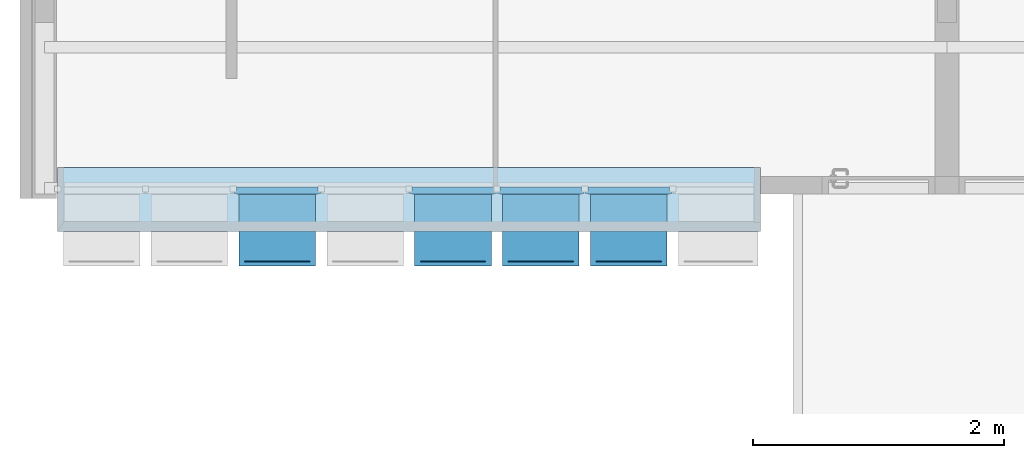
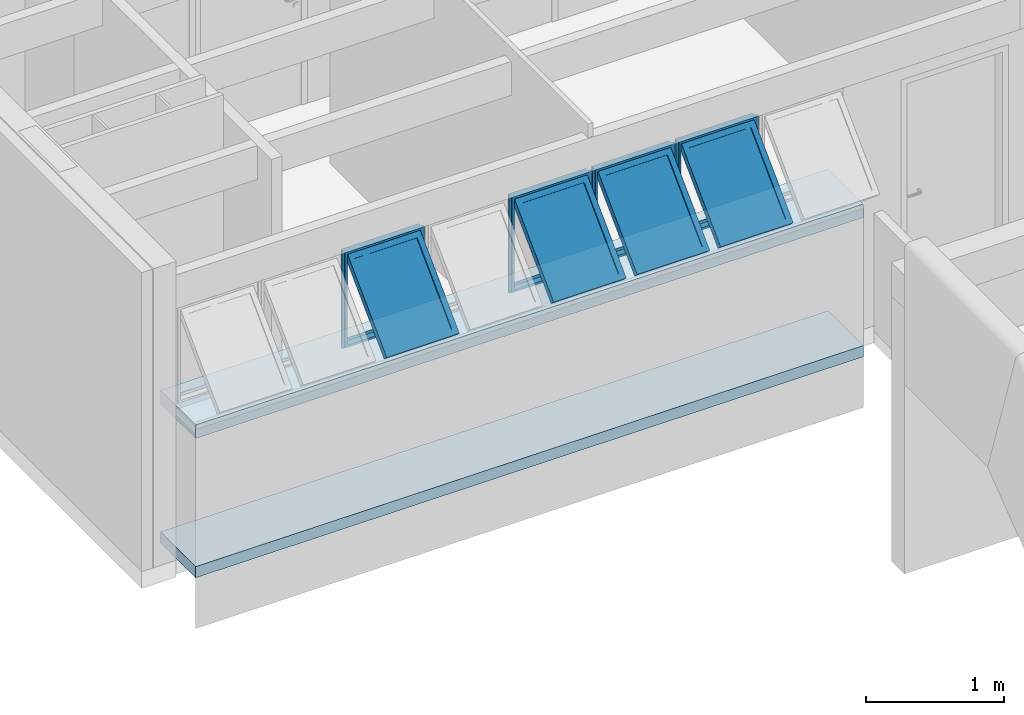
# One storey, part 11 of 41: 4 plates, 2 slabs, 1 element without a shape of its own.
"""IFC4 building model written with IfcOpenShell, lengths in millimetres."""

import ifcopenshell
import ifcopenshell.guid

model = None  # the IFC model being written
_history = None  # IfcOwnerHistory: only IFC2X3 demands one
_inside = {}  # id of a spatial element -> (the spatial element, [elements in it])
_under = {}  # id of a project, library or spatial element -> (it, [spatial elements below it])
_declared = {}  # id of a project -> (the project, [libraries it declares])
_typed = {}  # id of a type object -> (the type object, [elements of that type])
_made_of = {}  # id of a material, layer set ... -> (it, [elements and type objects made of it])


def new_model(schema):
    """Start an empty IFC model of exactly this schema.

    Asked for "IFC4X3", IfcOpenShell would pick the latest addendum, in which some entities
    have other attributes; the version numbers below select the first issue.
    IFC2X3 requires an IfcOwnerHistory on every rooted entity: one is made here for all.
    """
    global model, _history
    if schema == "IFC4X3":
        model = ifcopenshell.file(schema_version=(4, 3, 0, 0))
    else:
        model = ifcopenshell.file(schema=schema)
    _inside.clear()
    _under.clear()
    _declared.clear()
    _typed.clear()
    _made_of.clear()
    _history = None
    if model.schema == "IFC2X3":
        org = make("IfcOrganization", Name="unknown")
        user = make(
            "IfcPersonAndOrganization",
            ThePerson=make("IfcPerson", FamilyName="unknown"),
            TheOrganization=org,
        )
        app = make(
            "IfcApplication",
            ApplicationDeveloper=org,
            Version="unknown",
            ApplicationFullName="unknown",
            ApplicationIdentifier="unknown",
        )
        _history = make(
            "IfcOwnerHistory",
            OwningUser=user,
            OwningApplication=app,
            ChangeAction="ADDED",
            CreationDate=0,
        )
    return model


def make(cls, **values):
    """One entity of the class cls with the attributes given. An attribute that is None is left unset."""
    return model.create_entity(
        cls, **{name: value for name, value in values.items() if value is not None}
    )


def entity(cls, *values):
    """Any entity or typed value of the class cls, its attributes in the order of the schema. None: left unset."""
    e = model.create_entity(cls)
    for i, value in enumerate(values):
        if value is not None:
            e[i] = value
    return e


def rooted(cls, **values):
    """An entity with a GlobalId (a new one), such as an element, a storey or a relation."""
    return make(cls, GlobalId=ifcopenshell.guid.new(), OwnerHistory=_history, **values)


def si_unit(unit_type, name, prefix=None):
    """IfcSIUnit, for example si_unit("LENGTHUNIT", "METRE", prefix="MILLI")."""
    return make("IfcSIUnit", UnitType=unit_type, Prefix=prefix, Name=name)


def converted_unit(unit_type, name, factor, base, dimensions=None, offset=None):
    """IfcConversionBasedUnit, such as the inch: factor (a typed value) times the base unit."""
    return make(
        "IfcConversionBasedUnit"
        if offset is None
        else "IfcConversionBasedUnitWithOffset",
        ConversionOffset=offset,
        Dimensions=None
        if dimensions is None
        else entity("IfcDimensionalExponents", *dimensions),
        UnitType=unit_type,
        Name=name,
        ConversionFactor=make(
            "IfcMeasureWithUnit", ValueComponent=factor, UnitComponent=base
        ),
    )


def derived_unit(unit_type, elements):
    """IfcDerivedUnit: a product of units, each with its exponent."""
    return make(
        "IfcDerivedUnit",
        Elements=[
            make("IfcDerivedUnitElement", Unit=unit, Exponent=power)
            for unit, power in elements
        ],
        UnitType=unit_type,
    )


def assignment(units):
    """IfcUnitAssignment: the units of a project."""
    return None if units is None else make("IfcUnitAssignment", Units=units)


def point(xyz):
    """IfcCartesianPoint."""
    return None if xyz is None else make("IfcCartesianPoint", Coordinates=xyz)


def direction(xyz):
    """IfcDirection."""
    return None if xyz is None else make("IfcDirection", DirectionRatios=xyz)


def frame(location, z_axis=None, x_axis=None):
    """IfcAxis2Placement3D, a coordinate frame: its origin and axes. An axis left out is left unset."""
    return make(
        "IfcAxis2Placement3D",
        Location=point(location),
        Axis=direction(z_axis),
        RefDirection=direction(x_axis),
    )


def origin_with_axes():
    """The frame at (0, 0, 0) with the z axis (0, 0, 1) and the x axis (1, 0, 0) written out."""
    return frame((0.0, 0.0, 0.0), z_axis=(0.0, 0.0, 1.0), x_axis=(1.0, 0.0, 0.0))


def place(relative_to, where):
    """IfcLocalPlacement: puts the frame where relative to a parent placement (None: the world)."""
    return make(
        "IfcLocalPlacement", PlacementRelTo=relative_to, RelativePlacement=where
    )


def context(
    kind, dimensions, precision=None, world=None, true_north=None, identifier=None
):
    """IfcGeometricRepresentationContext, for example the 3D "Model" context."""
    return make(
        "IfcGeometricRepresentationContext",
        ContextIdentifier=identifier,
        ContextType=kind,
        CoordinateSpaceDimension=dimensions,
        Precision=precision,
        WorldCoordinateSystem=world,
        TrueNorth=true_north,
    )


def subcontext(parent, identifier, kind, view, scale=None):
    """IfcGeometricRepresentationSubContext, for example "Body" below "Model"."""
    return make(
        "IfcGeometricRepresentationSubContext",
        ContextIdentifier=identifier,
        ContextType=kind,
        ParentContext=parent,
        TargetScale=scale,
        TargetView=view,
    )


def project(units=None, contexts=None):
    """IfcProject with its units and contexts."""
    return rooted(
        "IfcProject",
        Name="project",
        RepresentationContexts=contexts,
        UnitsInContext=assignment(units),
    )


def spatial(cls, under=None, at=None, **own):
    """A site, building, storey or space (cls), placed at a placement, below another one or the project."""
    s = rooted(cls, ObjectPlacement=at, **own)
    if under is not None:
        _under.setdefault(under.id(), (under, []))[1].append(s)
    return s


def point_list(points):
    """IfcCartesianPointList2D or 3D."""
    cls = (
        "IfcCartesianPointList2D" if len(points[0]) == 2 else "IfcCartesianPointList3D"
    )
    return make(cls, CoordList=points)


def line(*indices):
    """IfcLineIndex: a straight run through numbered points of an indexed curve."""
    return model.create_entity("IfcLineIndex", indices)


def indexed_curve(points, segments=None, self_intersect=None):
    """IfcIndexedPolyCurve: lines and arcs through numbered points (the first is 1)."""
    return make(
        "IfcIndexedPolyCurve",
        Points=point_list(points),
        Segments=segments,
        SelfIntersect=self_intersect,
    )


def outline(outer, holes=None, kind="AREA"):
    """IfcArbitraryClosedProfileDef: a profile drawn as a closed curve; with holes, ...WithVoids."""
    if holes is None:
        return make("IfcArbitraryClosedProfileDef", ProfileType=kind, OuterCurve=outer)
    return make(
        "IfcArbitraryProfileDefWithVoids",
        ProfileType=kind,
        OuterCurve=outer,
        InnerCurves=holes,
    )


def extrude(swept, where, along, depth):
    """IfcExtrudedAreaSolid: the profile swept, set in the frame where, extruded along a direction by depth."""
    return make(
        "IfcExtrudedAreaSolid",
        SweptArea=swept,
        Position=where,
        ExtrudedDirection=direction(along),
        Depth=depth,
    )


def polygons(points, faces, closed=None, point_numbers=None):
    """IfcPolygonalFaceSet: a face is its outer loop, then its inner loops; points numbered from 1."""
    made = []
    for loops in faces:
        if len(loops) == 1:
            made.append(make("IfcIndexedPolygonalFace", CoordIndex=loops[0]))
        else:
            made.append(
                make(
                    "IfcIndexedPolygonalFaceWithVoids",
                    CoordIndex=loops[0],
                    InnerCoordIndices=loops[1:],
                )
            )
    return make(
        "IfcPolygonalFaceSet",
        Coordinates=point_list(points),
        Closed=closed,
        Faces=made,
        PnIndex=point_numbers,
    )


def shape(context_of_items, identifier, shape_type, items):
    """IfcShapeRepresentation: the items that make up one representation, for example the "Body"."""
    return make(
        "IfcShapeRepresentation",
        ContextOfItems=context_of_items,
        RepresentationIdentifier=identifier,
        RepresentationType=shape_type,
        Items=items,
    )


def source(mapping_origin, context_of_items, identifier, shape_type, items):
    """IfcRepresentationMap: a shape defined once, which mapped items show again and again."""
    return make(
        "IfcRepresentationMap",
        MappingOrigin=mapping_origin,
        MappedRepresentation=shape(context_of_items, identifier, shape_type, items),
    )


def transform(
    local_origin,
    x_axis=None,
    y_axis=None,
    z_axis=None,
    scale=None,
    scale2=None,
    scale3=None,
    uniform=True,
):
    """IfcCartesianTransformationOperator3D, or its non-uniform kind. x_axis, y_axis, z_axis: its Axis1, 2, 3."""
    if uniform:
        return make(
            "IfcCartesianTransformationOperator3D",
            Axis1=direction(x_axis),
            Axis2=direction(y_axis),
            LocalOrigin=point(local_origin),
            Scale=scale,
            Axis3=direction(z_axis),
        )
    return make(
        "IfcCartesianTransformationOperator3DnonUniform",
        Axis1=direction(x_axis),
        Axis2=direction(y_axis),
        LocalOrigin=point(local_origin),
        Scale=scale,
        Axis3=direction(z_axis),
        Scale2=scale2,
        Scale3=scale3,
    )


def mapped(mapping_source, mapping_target):
    """IfcMappedItem: shows the shape of a source again, moved by a transform."""
    return make(
        "IfcMappedItem", MappingSource=mapping_source, MappingTarget=mapping_target
    )


def material(Name=None, Category=None):
    """IfcMaterial."""
    return make("IfcMaterial", Name=Name, Category=Category)


def layer(
    of_material, thickness, ventilated=None, Name=None, Category=None, Priority=None
):
    """IfcMaterialLayer: one layer of a wall or slab, of a material (None: an air gap)."""
    return make(
        "IfcMaterialLayer",
        Material=of_material,
        LayerThickness=thickness,
        IsVentilated=ventilated,
        Name=Name,
        Category=Category,
        Priority=Priority,
    )


def layer_set(layers, Name=None):
    """IfcMaterialLayerSet."""
    return make("IfcMaterialLayerSet", MaterialLayers=layers, LayerSetName=Name)


def layer_usage(for_layer_set, set_direction, sense, offset, extent=None):
    """IfcMaterialLayerSetUsage: how a layer set lies in its element."""
    return make(
        "IfcMaterialLayerSetUsage",
        ForLayerSet=for_layer_set,
        LayerSetDirection=set_direction,
        DirectionSense=sense,
        OffsetFromReferenceLine=offset,
        ReferenceExtent=extent,
    )


def constituent(of_material, Name=None, Category=None, fraction=None):
    """IfcMaterialConstituent: one of the materials an element consists of."""
    return make(
        "IfcMaterialConstituent",
        Name=Name,
        Material=of_material,
        Fraction=fraction,
        Category=Category,
    )


def constituent_set(constituents=None, Name=None):
    """IfcMaterialConstituentSet."""
    return make(
        "IfcMaterialConstituentSet", Name=Name, MaterialConstituents=constituents
    )


def made_of(thing, what):
    """Note that an element or type object is made of a material, layer set ...; save() writes the relation."""
    if what is not None:
        _made_of.setdefault(what.id(), (what, []))[1].append(thing)
    return thing


def type_object(cls, material=None, **own):
    """A type object (cls), such as IfcWallType, which elements share."""
    return made_of(rooted(cls, **own), material)


def element(
    cls,
    number,
    at=None,
    inside=None,
    cuts=None,
    type_object=None,
    material=None,
    context=None,
    identifier="Body",
    shape_type=None,
    held_by="IfcProductDefinitionShape",
    body=None,
    shapes=None,
    **own,
):
    """One element of the class cls, such as IfcWall. Its Tag is "e" and its number.

    at: its placement. inside: the storey or other place that contains it. cuts: it is an
    opening in that element (IfcRelVoidsElement). A single representation is given by context,
    identifier, shape_type and body (its items); several are given by shapes. held_by: the class
    of the entity that holds the representations. save() writes the other relations.
    """
    e = rooted(cls, Tag="e%d" % number, ObjectPlacement=at, **own)
    if body is not None:
        shapes = [shape(context, identifier, shape_type, body)]
    if shapes is not None:
        e.Representation = make(held_by, Representations=shapes)
    if inside is not None:
        _inside.setdefault(inside.id(), (inside, []))[1].append(e)
    if cuts is not None:
        rooted(
            "IfcRelVoidsElement", RelatingBuildingElement=cuts, RelatedOpeningElement=e
        )
    if type_object is not None:
        _typed.setdefault(type_object.id(), (type_object, []))[1].append(e)
    return made_of(e, material)


def aggregate(whole, parts):
    """IfcRelAggregates: a whole, such as a stair, and the parts it consists of."""
    return rooted("IfcRelAggregates", RelatingObject=whole, RelatedObjects=parts)


def save(model, path):
    """Write the relations noted so far, then the file.

    IfcRelAggregates (storeys below a building ...), IfcRelContainedInSpatialStructure (elements
    in a storey), IfcRelDefinesByType, IfcRelAssociatesMaterial and IfcRelDeclares: one each for
    every whole, place, type object, material and project.
    """
    for whole, parts in _under.values():
        aggregate(whole, parts)
    for where, things in _inside.values():
        rooted(
            "IfcRelContainedInSpatialStructure",
            RelatedElements=things,
            RelatingStructure=where,
        )
    for kind, things in _typed.values():
        rooted("IfcRelDefinesByType", RelatedObjects=things, RelatingType=kind)
    for what, things in _made_of.values():
        rooted("IfcRelAssociatesMaterial", RelatedObjects=things, RelatingMaterial=what)
    for by, libraries in _declared.values():
        rooted("IfcRelDeclares", RelatingContext=by, RelatedDefinitions=libraries)
    model.write(path)


model = new_model("IFC4")

# Units and contexts
model_context = context("Model", 3, precision=0.01, world=origin_with_axes(), true_north=direction((0.0, 1.0)))
body_context = subcontext(model_context, "Body", "Model", "MODEL_VIEW")
ifc_project = project(units=[si_unit("LENGTHUNIT", "METRE", prefix="MILLI"), si_unit("AREAUNIT", "SQUARE_METRE"), si_unit("VOLUMEUNIT", "CUBIC_METRE"), converted_unit("PLANEANGLEUNIT", "DEGREE", entity("IfcPlaneAngleMeasure", 0.0174532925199), si_unit("PLANEANGLEUNIT", "RADIAN"), dimensions=[0, 0, 0, 0, 0, 0, 0]), converted_unit("TIMEUNIT", "Year", entity("IfcTimeMeasure", 31556926.0), si_unit("TIMEUNIT", "SECOND"), dimensions=[0, 0, 1, 0, 0, 0, 0]), si_unit("MASSUNIT", "GRAM", prefix="KILO"), si_unit("THERMODYNAMICTEMPERATUREUNIT", "DEGREE_CELSIUS"), si_unit("LUMINOUSINTENSITYUNIT", "LUMEN"), si_unit("ENERGYUNIT", "JOULE", prefix="MEGA"), derived_unit("THERMALCONDUCTANCEUNIT", [(si_unit("POWERUNIT", "WATT"), 1), (si_unit("LENGTHUNIT", "METRE"), -1), (si_unit("THERMODYNAMICTEMPERATUREUNIT", "KELVIN"), -1)]), derived_unit("SPECIFICHEATCAPACITYUNIT", [(si_unit("ENERGYUNIT", "JOULE"), 1), (si_unit("MASSUNIT", "GRAM", prefix="KILO"), -1), (si_unit("THERMODYNAMICTEMPERATUREUNIT", "KELVIN"), -1)]), derived_unit("MASSDENSITYUNIT", [(si_unit("MASSUNIT", "GRAM", prefix="KILO"), 1), (si_unit("VOLUMEUNIT", "CUBIC_METRE"), -1)])], contexts=[model_context])

# Site, building, storey
site_placement = place(None, origin_with_axes())
site = spatial("IfcSite", under=ifc_project, at=site_placement, Name="Local", CompositionType="ELEMENT")
building_placement = place(site_placement, origin_with_axes())
building = spatial("IfcBuilding", under=site, at=building_placement, Name="Construção", CompositionType="ELEMENT")
storey_placement = place(building_placement, frame((0.0, 0.0, 2650.0), z_axis=(0.0, 0.0, 1.0), x_axis=(1.0, 0.0, 0.0)))
storey = spatial("IfcBuildingStorey", under=building, at=storey_placement, Name="Segundo Pavimento", CompositionType="ELEMENT", Elevation=2650.0)

# Slab
ifc_material_1 = material(Name="Concreto Armado Moldado in Loco - Estrutural")
ifc_layer_1 = layer(ifc_material_1, 120.0, ventilated="UNKNOWN", Name="Concreto Armado Moldado in Loco - Estrutural")
ifc_layer_set_1 = layer_set([ifc_layer_1], Name="Concreto Armado Moldado in Loco - Estrutural 120")
ifc_layer_usage_1 = layer_usage(ifc_layer_set_1, "AXIS3", "NEGATIVE", 120.0)
slab_type_1 = type_object("IfcSlabType", Name="Concreto Armado Moldado in Loco - Estrutural 120", PredefinedType="FLOOR")
slab_1_placement = place(storey_placement, frame((300.0, 17595.0000013, 1355.0), z_axis=(0.0, 0.0, 1.0), x_axis=(1.0, 0.0, 0.0)))
element("IfcSlab", 1, at=slab_1_placement, inside=storey, type_object=slab_type_1, material=ifc_layer_usage_1, Name="APTO7-LAJE-003", PredefinedType="FLOOR", context=body_context, shape_type="SweptSolid", body=[
    extrude(outline(indexed_curve([(0.0, 0.0), (5600.0, 0.0), (5600.0, 510.0), (0.0, 510.0)], segments=[line(1, 2, 3, 4, 1)])), frame((0.0, 0.0, -120.0), z_axis=(0.0, 0.0, 1.0), x_axis=(1.0, 0.0, 0.0)), (0.0, 0.0, 1.0), 120.0),
])

# Window, plates
window_type = type_object("IfcWindowType", Name="Tipo de Parede Cortina", PartitioningType="NOTDEFINED", PredefinedType="NOTDEFINED")
window_placement = place(storey_placement, frame((2750.0, 17910.0, 1355.00007107), z_axis=(0.0, 0.0, 1.0), x_axis=(1.0, 0.0, 0.0)))
window = element("IfcWindow", 2, at=window_placement, inside=storey, type_object=window_type, Name="APTO7-JANELA-000", PredefinedType="NOTDEFINED")
ifc_material_2 = material(Name="Alumínio")
ifc_constituent_1 = constituent(ifc_material_2, Name="Alumínio")
ifc_material_3 = material(Name="Vidro")
ifc_constituent_2 = constituent(ifc_material_3, Name="Vidro")
ifc_constituent_set_1 = constituent_set(constituents=[ifc_constituent_1, ifc_constituent_2])
plate_type = type_object("IfcPlateType", Name="Painel Principal 690 x 845 x 20", PredefinedType="CURTAIN_PANEL")
shared_shape_1 = source(origin_with_axes(), body_context, "Body", "Tessellation", [
    polygons([(25.0000036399, 0.0, -40.0), (674.999997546, 0.0, -40.0), (674.999997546, 0.0, -35.0), (25.0000036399, 0.0, -35.0), (70.0000036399, 45.0, -40.0), (629.999997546, 45.0, -40.0), (629.999997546, 45.0, -35.0), (70.0000036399, 45.0, -35.0)], [[[1, 2, 3, 4]], [[1, 5, 6, 2]], [[2, 6, 7, 3]], [[4, 3, 7, 8]], [[5, 1, 4, 8]], [[6, 5, 8, 7]]], closed=True),
    polygons([(674.999997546, 0.0, -40.0), (674.999997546, 844.999891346, -40.0), (674.999997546, 844.999891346, -35.0), (674.999997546, 0.0, -35.0), (629.999997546, 45.0, -40.0), (629.999997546, 799.999891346, -40.0), (629.999997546, 799.999891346, -35.0), (629.999997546, 45.0, -35.0)], [[[1, 2, 3, 4]], [[1, 5, 6, 2]], [[2, 6, 7, 3]], [[4, 3, 7, 8]], [[5, 1, 4, 8]], [[6, 5, 8, 7]]], closed=True),
    polygons([(25.0000036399, 844.999891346, -40.0), (70.0000036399, 799.999891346, -40.0), (70.0000036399, 799.999891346, -35.0), (25.0000036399, 844.999891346, -35.0), (674.999997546, 844.999891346, -40.0), (629.999997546, 799.999891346, -40.0), (629.999997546, 799.999891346, -35.0), (674.999997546, 844.999891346, -35.0)], [[[1, 2, 3, 4]], [[1, 5, 6, 2]], [[2, 6, 7, 3]], [[4, 3, 7, 8]], [[5, 1, 4, 8]], [[6, 5, 8, 7]]], closed=True),
    polygons([(25.0000036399, 0.0, -40.0), (70.0000036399, 45.0, -40.0), (70.0000036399, 45.0, -35.0), (25.0000036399, 0.0, -35.0), (25.0000036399, 844.999891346, -40.0), (70.0000036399, 799.999891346, -40.0), (70.0000036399, 799.999891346, -35.0), (25.0000036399, 844.999891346, -35.0)], [[[1, 2, 3, 4]], [[1, 5, 6, 2]], [[2, 6, 7, 3]], [[4, 3, 7, 8]], [[5, 1, 4, 8]], [[6, 5, 8, 7]]], closed=True),
    polygons([(25.0000036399, 0.0, -35.0), (674.999997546, 0.0, -35.0), (674.999997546, 0.0, 15.0), (25.0000036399, 0.0, 15.0), (45.0000036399, 20.0, -35.0), (654.999997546, 20.0, -35.0), (654.999997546, 20.0, 15.0), (45.0000036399, 20.0, 15.0)], [[[1, 2, 3, 4]], [[1, 5, 6, 2]], [[2, 6, 7, 3]], [[4, 3, 7, 8]], [[5, 1, 4, 8]], [[6, 5, 8, 7]]], closed=True),
    polygons([(674.999997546, 0.0, -35.0), (674.999997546, 844.999891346, -35.0), (674.999997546, 844.999891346, 15.0), (674.999997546, 0.0, 15.0), (654.999997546, 20.0, -35.0), (654.999997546, 824.999891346, -35.0), (654.999997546, 824.999891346, 15.0), (654.999997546, 20.0, 15.0)], [[[1, 2, 3, 4]], [[1, 5, 6, 2]], [[2, 6, 7, 3]], [[4, 3, 7, 8]], [[5, 1, 4, 8]], [[6, 5, 8, 7]]], closed=True),
    polygons([(25.0000036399, 844.999891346, -35.0), (45.0000036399, 824.999891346, -35.0), (45.0000036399, 824.999891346, 15.0), (25.0000036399, 844.999891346, 15.0), (674.999997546, 844.999891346, -35.0), (654.999997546, 824.999891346, -35.0), (654.999997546, 824.999891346, 15.0), (674.999997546, 844.999891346, 15.0)], [[[1, 2, 3, 4]], [[1, 5, 6, 2]], [[2, 6, 7, 3]], [[4, 3, 7, 8]], [[5, 1, 4, 8]], [[6, 5, 8, 7]]], closed=True),
    polygons([(25.0000036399, 0.0, -35.0), (45.0000036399, 20.0, -35.0), (45.0000036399, 20.0, 15.0), (25.0000036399, 0.0, 15.0), (25.0000036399, 844.999891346, -35.0), (45.0000036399, 824.999891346, -35.0), (45.0000036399, 824.999891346, 15.0), (25.0000036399, 844.999891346, 15.0)], [[[1, 2, 3, 4]], [[1, 5, 6, 2]], [[2, 6, 7, 3]], [[4, 3, 7, 8]], [[5, 1, 4, 8]], [[6, 5, 8, 7]]], closed=True),
    polygons([(694.999995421, 0.0, -10.0), (694.999995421, 844.999891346, -10.0), (694.999995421, 844.999891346, 10.0), (694.999995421, 0.0, 10.0), (674.999997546, 0.0, -10.0), (674.999997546, 844.999891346, -10.0), (674.999997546, 844.999891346, 10.0), (674.999997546, 0.0, 10.0)], [[[1, 2, 3, 4]], [[1, 5, 6, 2]], [[2, 6, 7, 3]], [[4, 3, 7, 8]], [[5, 1, 4, 8]], [[6, 5, 8, 7]]], closed=True),
    polygons([(5.00000576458, 844.999891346, -10.0), (5.00000576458, 0.0, -10.0), (5.00000576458, 0.0, 10.0), (5.00000576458, 844.999891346, 10.0), (25.0000036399, 844.999891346, -10.0), (25.0000036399, 0.0, -10.0), (25.0000036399, 0.0, 10.0), (25.0000036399, 844.999891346, 10.0)], [[[1, 2, 3, 4]], [[1, 5, 6, 2]], [[2, 6, 7, 3]], [[4, 3, 7, 8]], [[5, 1, 4, 8]], [[6, 5, 8, 7]]], closed=True),
    polygons([(90.0000036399, 252.243475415, 517.045737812), (90.0000036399, 757.824747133, 11.4644660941), (90.0000036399, 796.715620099, 50.3553390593), (90.0000036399, 291.13434838, 555.936610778), (45.0000036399, 220.423670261, 548.865542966), (45.0000036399, 789.644552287, -20.3553390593), (45.0000036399, 828.535425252, 18.5355339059), (45.0000036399, 259.314543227, 587.756415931)], [[[1, 2, 3, 4]], [[1, 5, 6, 2]], [[2, 6, 7, 3]], [[4, 3, 7, 8]], [[5, 1, 4, 8]], [[6, 5, 8, 7]]], closed=True),
    polygons([(654.999997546, 220.423670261, 548.865542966), (654.999997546, 789.644552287, -20.3553390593), (654.999997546, 828.535425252, 18.5355339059), (654.999997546, 259.314543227, 587.756415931), (609.999997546, 252.243475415, 517.045737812), (609.999997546, 757.824747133, 11.4644660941), (609.999997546, 796.715620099, 50.3553390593), (609.999997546, 291.13434838, 555.936610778)], [[[1, 2, 3, 4]], [[1, 5, 6, 2]], [[2, 6, 7, 3]], [[4, 3, 7, 8]], [[5, 1, 4, 8]], [[6, 5, 8, 7]]], closed=True),
    polygons([(654.999997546, 220.423670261, 548.865542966), (609.999997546, 252.243475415, 517.045737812), (609.999997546, 291.13434838, 555.936610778), (654.999997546, 259.314543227, 587.756415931), (45.0000036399, 220.423670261, 548.865542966), (90.0000036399, 252.243475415, 517.045737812), (90.0000036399, 291.13434838, 555.936610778), (45.0000036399, 259.314543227, 587.756415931)], [[[1, 2, 3, 4]], [[1, 5, 6, 2]], [[2, 6, 7, 3]], [[4, 3, 7, 8]], [[5, 1, 4, 8]], [[6, 5, 8, 7]]], closed=True),
    polygons([(45.0000036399, 789.644552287, -20.3553390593), (90.0000036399, 757.824747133, 11.4644660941), (90.0000036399, 796.715620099, 50.3553390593), (45.0000036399, 828.535425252, 18.5355339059), (654.999997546, 789.644552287, -20.3553390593), (609.999997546, 757.824747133, 11.4644660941), (609.999997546, 796.715620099, 50.3553390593), (654.999997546, 828.535425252, 18.5355339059)], [[[1, 2, 3, 4]], [[1, 5, 6, 2]], [[2, 6, 7, 3]], [[4, 3, 7, 8]], [[5, 1, 4, 8]], [[6, 5, 8, 7]]], closed=True),
    polygons([(90.0000036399, 272.749572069, 537.551834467), (609.999997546, 272.749572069, 537.551834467), (609.999997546, 284.063280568, 548.865542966), (90.0000036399, 284.063280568, 548.865542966), (90.0000036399, 778.330843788, 31.9705627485), (609.999997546, 778.330843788, 31.9705627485), (609.999997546, 789.644552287, 43.2842712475), (90.0000036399, 789.644552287, 43.2842712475)], [[[1, 2, 3, 4]], [[1, 5, 6, 2]], [[2, 6, 7, 3]], [[4, 3, 7, 8]], [[5, 1, 4, 8]], [[6, 5, 8, 7]]], closed=True),
])
plate_1_placement = place(window_placement, frame((2100.0, 0.0, 422.499964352), z_axis=(0.0, 0.0, 1.0), x_axis=(-1.0, 0.0, 0.0)))
plate_1 = element("IfcPlate", 3, at=plate_1_placement, type_object=plate_type, material=ifc_constituent_set_1, Name="APTO7-Painel-Prin-029", PredefinedType="CURTAIN_PANEL", context=body_context, shape_type="MappedRepresentation", body=[
    mapped(shared_shape_1, transform((350.0, 0.0, -422.499964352), x_axis=(-1.0, 0.0, 0.0), y_axis=(0.0, 0.0, 1.0), z_axis=(0.0, 1.0, 0.0))),
])
ifc_constituent_3 = constituent(ifc_material_2, Name="Alumínio")
ifc_constituent_4 = constituent(ifc_material_3, Name="Vidro")
ifc_constituent_set_2 = constituent_set(constituents=[ifc_constituent_3, ifc_constituent_4])
shared_shape_2 = source(origin_with_axes(), body_context, "Body", "Tessellation", [
    polygons([(25.0000036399, 0.0, -40.0), (674.999997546, 0.0, -40.0), (674.999997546, 0.0, -35.0), (25.0000036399, 0.0, -35.0), (70.0000036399, 45.0, -40.0), (629.999997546, 45.0, -40.0), (629.999997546, 45.0, -35.0), (70.0000036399, 45.0, -35.0)], [[[1, 2, 3, 4]], [[1, 5, 6, 2]], [[2, 6, 7, 3]], [[4, 3, 7, 8]], [[5, 1, 4, 8]], [[6, 5, 8, 7]]], closed=True),
    polygons([(674.999997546, 0.0, -40.0), (674.999997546, 844.999891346, -40.0), (674.999997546, 844.999891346, -35.0), (674.999997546, 0.0, -35.0), (629.999997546, 45.0, -40.0), (629.999997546, 799.999891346, -40.0), (629.999997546, 799.999891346, -35.0), (629.999997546, 45.0, -35.0)], [[[1, 2, 3, 4]], [[1, 5, 6, 2]], [[2, 6, 7, 3]], [[4, 3, 7, 8]], [[5, 1, 4, 8]], [[6, 5, 8, 7]]], closed=True),
    polygons([(25.0000036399, 844.999891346, -40.0), (70.0000036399, 799.999891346, -40.0), (70.0000036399, 799.999891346, -35.0), (25.0000036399, 844.999891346, -35.0), (674.999997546, 844.999891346, -40.0), (629.999997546, 799.999891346, -40.0), (629.999997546, 799.999891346, -35.0), (674.999997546, 844.999891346, -35.0)], [[[1, 2, 3, 4]], [[1, 5, 6, 2]], [[2, 6, 7, 3]], [[4, 3, 7, 8]], [[5, 1, 4, 8]], [[6, 5, 8, 7]]], closed=True),
    polygons([(25.0000036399, 0.0, -40.0), (70.0000036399, 45.0, -40.0), (70.0000036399, 45.0, -35.0), (25.0000036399, 0.0, -35.0), (25.0000036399, 844.999891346, -40.0), (70.0000036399, 799.999891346, -40.0), (70.0000036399, 799.999891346, -35.0), (25.0000036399, 844.999891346, -35.0)], [[[1, 2, 3, 4]], [[1, 5, 6, 2]], [[2, 6, 7, 3]], [[4, 3, 7, 8]], [[5, 1, 4, 8]], [[6, 5, 8, 7]]], closed=True),
    polygons([(25.0000036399, 0.0, -35.0), (674.999997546, 0.0, -35.0), (674.999997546, 0.0, 15.0), (25.0000036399, 0.0, 15.0), (45.0000036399, 20.0, -35.0), (654.999997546, 20.0, -35.0), (654.999997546, 20.0, 15.0), (45.0000036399, 20.0, 15.0)], [[[1, 2, 3, 4]], [[1, 5, 6, 2]], [[2, 6, 7, 3]], [[4, 3, 7, 8]], [[5, 1, 4, 8]], [[6, 5, 8, 7]]], closed=True),
    polygons([(674.999997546, 0.0, -35.0), (674.999997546, 844.999891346, -35.0), (674.999997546, 844.999891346, 15.0), (674.999997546, 0.0, 15.0), (654.999997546, 20.0, -35.0), (654.999997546, 824.999891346, -35.0), (654.999997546, 824.999891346, 15.0), (654.999997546, 20.0, 15.0)], [[[1, 2, 3, 4]], [[1, 5, 6, 2]], [[2, 6, 7, 3]], [[4, 3, 7, 8]], [[5, 1, 4, 8]], [[6, 5, 8, 7]]], closed=True),
    polygons([(25.0000036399, 844.999891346, -35.0), (45.0000036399, 824.999891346, -35.0), (45.0000036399, 824.999891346, 15.0), (25.0000036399, 844.999891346, 15.0), (674.999997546, 844.999891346, -35.0), (654.999997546, 824.999891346, -35.0), (654.999997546, 824.999891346, 15.0), (674.999997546, 844.999891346, 15.0)], [[[1, 2, 3, 4]], [[1, 5, 6, 2]], [[2, 6, 7, 3]], [[4, 3, 7, 8]], [[5, 1, 4, 8]], [[6, 5, 8, 7]]], closed=True),
    polygons([(25.0000036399, 0.0, -35.0), (45.0000036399, 20.0, -35.0), (45.0000036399, 20.0, 15.0), (25.0000036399, 0.0, 15.0), (25.0000036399, 844.999891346, -35.0), (45.0000036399, 824.999891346, -35.0), (45.0000036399, 824.999891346, 15.0), (25.0000036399, 844.999891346, 15.0)], [[[1, 2, 3, 4]], [[1, 5, 6, 2]], [[2, 6, 7, 3]], [[4, 3, 7, 8]], [[5, 1, 4, 8]], [[6, 5, 8, 7]]], closed=True),
    polygons([(694.999995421, 0.0, -10.0), (694.999995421, 844.999891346, -10.0), (694.999995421, 844.999891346, 10.0), (694.999995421, 0.0, 10.0), (674.999997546, 0.0, -10.0), (674.999997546, 844.999891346, -10.0), (674.999997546, 844.999891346, 10.0), (674.999997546, 0.0, 10.0)], [[[1, 2, 3, 4]], [[1, 5, 6, 2]], [[2, 6, 7, 3]], [[4, 3, 7, 8]], [[5, 1, 4, 8]], [[6, 5, 8, 7]]], closed=True),
    polygons([(5.00000576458, 844.999891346, -10.0), (5.00000576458, 0.0, -10.0), (5.00000576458, 0.0, 10.0), (5.00000576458, 844.999891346, 10.0), (25.0000036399, 844.999891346, -10.0), (25.0000036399, 0.0, -10.0), (25.0000036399, 0.0, 10.0), (25.0000036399, 844.999891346, 10.0)], [[[1, 2, 3, 4]], [[1, 5, 6, 2]], [[2, 6, 7, 3]], [[4, 3, 7, 8]], [[5, 1, 4, 8]], [[6, 5, 8, 7]]], closed=True),
    polygons([(90.0000036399, 252.243475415, 517.045737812), (90.0000036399, 757.824747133, 11.4644660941), (90.0000036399, 796.715620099, 50.3553390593), (90.0000036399, 291.13434838, 555.936610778), (45.0000036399, 220.423670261, 548.865542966), (45.0000036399, 789.644552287, -20.3553390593), (45.0000036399, 828.535425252, 18.5355339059), (45.0000036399, 259.314543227, 587.756415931)], [[[1, 2, 3, 4]], [[1, 5, 6, 2]], [[2, 6, 7, 3]], [[4, 3, 7, 8]], [[5, 1, 4, 8]], [[6, 5, 8, 7]]], closed=True),
    polygons([(654.999997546, 220.423670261, 548.865542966), (654.999997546, 789.644552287, -20.3553390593), (654.999997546, 828.535425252, 18.5355339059), (654.999997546, 259.314543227, 587.756415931), (609.999997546, 252.243475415, 517.045737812), (609.999997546, 757.824747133, 11.4644660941), (609.999997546, 796.715620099, 50.3553390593), (609.999997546, 291.13434838, 555.936610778)], [[[1, 2, 3, 4]], [[1, 5, 6, 2]], [[2, 6, 7, 3]], [[4, 3, 7, 8]], [[5, 1, 4, 8]], [[6, 5, 8, 7]]], closed=True),
    polygons([(654.999997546, 220.423670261, 548.865542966), (609.999997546, 252.243475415, 517.045737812), (609.999997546, 291.13434838, 555.936610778), (654.999997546, 259.314543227, 587.756415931), (45.0000036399, 220.423670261, 548.865542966), (90.0000036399, 252.243475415, 517.045737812), (90.0000036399, 291.13434838, 555.936610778), (45.0000036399, 259.314543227, 587.756415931)], [[[1, 2, 3, 4]], [[1, 5, 6, 2]], [[2, 6, 7, 3]], [[4, 3, 7, 8]], [[5, 1, 4, 8]], [[6, 5, 8, 7]]], closed=True),
    polygons([(45.0000036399, 789.644552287, -20.3553390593), (90.0000036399, 757.824747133, 11.4644660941), (90.0000036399, 796.715620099, 50.3553390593), (45.0000036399, 828.535425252, 18.5355339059), (654.999997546, 789.644552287, -20.3553390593), (609.999997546, 757.824747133, 11.4644660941), (609.999997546, 796.715620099, 50.3553390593), (654.999997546, 828.535425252, 18.5355339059)], [[[1, 2, 3, 4]], [[1, 5, 6, 2]], [[2, 6, 7, 3]], [[4, 3, 7, 8]], [[5, 1, 4, 8]], [[6, 5, 8, 7]]], closed=True),
    polygons([(90.0000036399, 272.749572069, 537.551834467), (609.999997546, 272.749572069, 537.551834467), (609.999997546, 284.063280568, 548.865542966), (90.0000036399, 284.063280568, 548.865542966), (90.0000036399, 778.330843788, 31.9705627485), (609.999997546, 778.330843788, 31.9705627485), (609.999997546, 789.644552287, 43.2842712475), (90.0000036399, 789.644552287, 43.2842712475)], [[[1, 2, 3, 4]], [[1, 5, 6, 2]], [[2, 6, 7, 3]], [[4, 3, 7, 8]], [[5, 1, 4, 8]], [[6, 5, 8, 7]]], closed=True),
])
plate_2_placement = place(window_placement, frame((1400.0, 0.0, 422.499964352), z_axis=(0.0, 0.0, 1.0), x_axis=(-1.0, 0.0, 0.0)))
plate_2 = element("IfcPlate", 4, at=plate_2_placement, type_object=plate_type, material=ifc_constituent_set_2, Name="APTO7-Painel-Prin-025", PredefinedType="CURTAIN_PANEL", context=body_context, shape_type="MappedRepresentation", body=[
    mapped(shared_shape_2, transform((350.0, 0.0, -422.499964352), x_axis=(-1.0, 0.0, 0.0), y_axis=(0.0, 0.0, 1.0), z_axis=(0.0, 1.0, 0.0))),
])
ifc_constituent_5 = constituent(ifc_material_2, Name="Alumínio")
ifc_constituent_6 = constituent(ifc_material_3, Name="Vidro")
ifc_constituent_set_3 = constituent_set(constituents=[ifc_constituent_5, ifc_constituent_6])
shared_shape_3 = source(origin_with_axes(), body_context, "Body", "Tessellation", [
    polygons([(25.0000036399, 0.0, -40.0), (674.999997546, 0.0, -40.0), (674.999997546, 0.0, -35.0), (25.0000036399, 0.0, -35.0), (70.0000036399, 45.0, -40.0), (629.999997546, 45.0, -40.0), (629.999997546, 45.0, -35.0), (70.0000036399, 45.0, -35.0)], [[[1, 2, 3, 4]], [[1, 5, 6, 2]], [[2, 6, 7, 3]], [[4, 3, 7, 8]], [[5, 1, 4, 8]], [[6, 5, 8, 7]]], closed=True),
    polygons([(674.999997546, 0.0, -40.0), (674.999997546, 844.999891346, -40.0), (674.999997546, 844.999891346, -35.0), (674.999997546, 0.0, -35.0), (629.999997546, 45.0, -40.0), (629.999997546, 799.999891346, -40.0), (629.999997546, 799.999891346, -35.0), (629.999997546, 45.0, -35.0)], [[[1, 2, 3, 4]], [[1, 5, 6, 2]], [[2, 6, 7, 3]], [[4, 3, 7, 8]], [[5, 1, 4, 8]], [[6, 5, 8, 7]]], closed=True),
    polygons([(25.0000036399, 844.999891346, -40.0), (70.0000036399, 799.999891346, -40.0), (70.0000036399, 799.999891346, -35.0), (25.0000036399, 844.999891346, -35.0), (674.999997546, 844.999891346, -40.0), (629.999997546, 799.999891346, -40.0), (629.999997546, 799.999891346, -35.0), (674.999997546, 844.999891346, -35.0)], [[[1, 2, 3, 4]], [[1, 5, 6, 2]], [[2, 6, 7, 3]], [[4, 3, 7, 8]], [[5, 1, 4, 8]], [[6, 5, 8, 7]]], closed=True),
    polygons([(25.0000036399, 0.0, -40.0), (70.0000036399, 45.0, -40.0), (70.0000036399, 45.0, -35.0), (25.0000036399, 0.0, -35.0), (25.0000036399, 844.999891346, -40.0), (70.0000036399, 799.999891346, -40.0), (70.0000036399, 799.999891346, -35.0), (25.0000036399, 844.999891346, -35.0)], [[[1, 2, 3, 4]], [[1, 5, 6, 2]], [[2, 6, 7, 3]], [[4, 3, 7, 8]], [[5, 1, 4, 8]], [[6, 5, 8, 7]]], closed=True),
    polygons([(25.0000036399, 0.0, -35.0), (674.999997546, 0.0, -35.0), (674.999997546, 0.0, 15.0), (25.0000036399, 0.0, 15.0), (45.0000036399, 20.0, -35.0), (654.999997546, 20.0, -35.0), (654.999997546, 20.0, 15.0), (45.0000036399, 20.0, 15.0)], [[[1, 2, 3, 4]], [[1, 5, 6, 2]], [[2, 6, 7, 3]], [[4, 3, 7, 8]], [[5, 1, 4, 8]], [[6, 5, 8, 7]]], closed=True),
    polygons([(674.999997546, 0.0, -35.0), (674.999997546, 844.999891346, -35.0), (674.999997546, 844.999891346, 15.0), (674.999997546, 0.0, 15.0), (654.999997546, 20.0, -35.0), (654.999997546, 824.999891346, -35.0), (654.999997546, 824.999891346, 15.0), (654.999997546, 20.0, 15.0)], [[[1, 2, 3, 4]], [[1, 5, 6, 2]], [[2, 6, 7, 3]], [[4, 3, 7, 8]], [[5, 1, 4, 8]], [[6, 5, 8, 7]]], closed=True),
    polygons([(25.0000036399, 844.999891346, -35.0), (45.0000036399, 824.999891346, -35.0), (45.0000036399, 824.999891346, 15.0), (25.0000036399, 844.999891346, 15.0), (674.999997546, 844.999891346, -35.0), (654.999997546, 824.999891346, -35.0), (654.999997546, 824.999891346, 15.0), (674.999997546, 844.999891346, 15.0)], [[[1, 2, 3, 4]], [[1, 5, 6, 2]], [[2, 6, 7, 3]], [[4, 3, 7, 8]], [[5, 1, 4, 8]], [[6, 5, 8, 7]]], closed=True),
    polygons([(25.0000036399, 0.0, -35.0), (45.0000036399, 20.0, -35.0), (45.0000036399, 20.0, 15.0), (25.0000036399, 0.0, 15.0), (25.0000036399, 844.999891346, -35.0), (45.0000036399, 824.999891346, -35.0), (45.0000036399, 824.999891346, 15.0), (25.0000036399, 844.999891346, 15.0)], [[[1, 2, 3, 4]], [[1, 5, 6, 2]], [[2, 6, 7, 3]], [[4, 3, 7, 8]], [[5, 1, 4, 8]], [[6, 5, 8, 7]]], closed=True),
    polygons([(694.999995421, 0.0, -10.0), (694.999995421, 844.999891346, -10.0), (694.999995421, 844.999891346, 10.0), (694.999995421, 0.0, 10.0), (674.999997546, 0.0, -10.0), (674.999997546, 844.999891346, -10.0), (674.999997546, 844.999891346, 10.0), (674.999997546, 0.0, 10.0)], [[[1, 2, 3, 4]], [[1, 5, 6, 2]], [[2, 6, 7, 3]], [[4, 3, 7, 8]], [[5, 1, 4, 8]], [[6, 5, 8, 7]]], closed=True),
    polygons([(5.00000576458, 844.999891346, -10.0), (5.00000576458, 0.0, -10.0), (5.00000576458, 0.0, 10.0), (5.00000576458, 844.999891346, 10.0), (25.0000036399, 844.999891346, -10.0), (25.0000036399, 0.0, -10.0), (25.0000036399, 0.0, 10.0), (25.0000036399, 844.999891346, 10.0)], [[[1, 2, 3, 4]], [[1, 5, 6, 2]], [[2, 6, 7, 3]], [[4, 3, 7, 8]], [[5, 1, 4, 8]], [[6, 5, 8, 7]]], closed=True),
    polygons([(90.0000036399, 252.243475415, 517.045737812), (90.0000036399, 757.824747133, 11.4644660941), (90.0000036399, 796.715620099, 50.3553390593), (90.0000036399, 291.13434838, 555.936610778), (45.0000036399, 220.423670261, 548.865542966), (45.0000036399, 789.644552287, -20.3553390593), (45.0000036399, 828.535425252, 18.5355339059), (45.0000036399, 259.314543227, 587.756415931)], [[[1, 2, 3, 4]], [[1, 5, 6, 2]], [[2, 6, 7, 3]], [[4, 3, 7, 8]], [[5, 1, 4, 8]], [[6, 5, 8, 7]]], closed=True),
    polygons([(654.999997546, 220.423670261, 548.865542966), (654.999997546, 789.644552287, -20.3553390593), (654.999997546, 828.535425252, 18.5355339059), (654.999997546, 259.314543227, 587.756415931), (609.999997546, 252.243475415, 517.045737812), (609.999997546, 757.824747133, 11.4644660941), (609.999997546, 796.715620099, 50.3553390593), (609.999997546, 291.13434838, 555.936610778)], [[[1, 2, 3, 4]], [[1, 5, 6, 2]], [[2, 6, 7, 3]], [[4, 3, 7, 8]], [[5, 1, 4, 8]], [[6, 5, 8, 7]]], closed=True),
    polygons([(654.999997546, 220.423670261, 548.865542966), (609.999997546, 252.243475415, 517.045737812), (609.999997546, 291.13434838, 555.936610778), (654.999997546, 259.314543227, 587.756415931), (45.0000036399, 220.423670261, 548.865542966), (90.0000036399, 252.243475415, 517.045737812), (90.0000036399, 291.13434838, 555.936610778), (45.0000036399, 259.314543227, 587.756415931)], [[[1, 2, 3, 4]], [[1, 5, 6, 2]], [[2, 6, 7, 3]], [[4, 3, 7, 8]], [[5, 1, 4, 8]], [[6, 5, 8, 7]]], closed=True),
    polygons([(45.0000036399, 789.644552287, -20.3553390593), (90.0000036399, 757.824747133, 11.4644660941), (90.0000036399, 796.715620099, 50.3553390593), (45.0000036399, 828.535425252, 18.5355339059), (654.999997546, 789.644552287, -20.3553390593), (609.999997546, 757.824747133, 11.4644660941), (609.999997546, 796.715620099, 50.3553390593), (654.999997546, 828.535425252, 18.5355339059)], [[[1, 2, 3, 4]], [[1, 5, 6, 2]], [[2, 6, 7, 3]], [[4, 3, 7, 8]], [[5, 1, 4, 8]], [[6, 5, 8, 7]]], closed=True),
    polygons([(90.0000036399, 272.749572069, 537.551834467), (609.999997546, 272.749572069, 537.551834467), (609.999997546, 284.063280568, 548.865542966), (90.0000036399, 284.063280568, 548.865542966), (90.0000036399, 778.330843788, 31.9705627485), (609.999997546, 778.330843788, 31.9705627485), (609.999997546, 789.644552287, 43.2842712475), (90.0000036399, 789.644552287, 43.2842712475)], [[[1, 2, 3, 4]], [[1, 5, 6, 2]], [[2, 6, 7, 3]], [[4, 3, 7, 8]], [[5, 1, 4, 8]], [[6, 5, 8, 7]]], closed=True),
])
plate_3_placement = place(window_placement, frame((700.0, 0.0, 422.499964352), z_axis=(0.0, 0.0, 1.0), x_axis=(-1.0, 0.0, 0.0)))
plate_3 = element("IfcPlate", 5, at=plate_3_placement, type_object=plate_type, material=ifc_constituent_set_3, Name="APTO7-Painel-Prin-013", PredefinedType="CURTAIN_PANEL", context=body_context, shape_type="MappedRepresentation", body=[
    mapped(shared_shape_3, transform((350.0, 0.0, -422.499964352), x_axis=(-1.0, 0.0, 0.0), y_axis=(0.0, 0.0, 1.0), z_axis=(0.0, 1.0, 0.0))),
])
ifc_constituent_7 = constituent(ifc_material_2, Name="Alumínio")
ifc_constituent_8 = constituent(ifc_material_3, Name="Vidro")
ifc_constituent_set_4 = constituent_set(constituents=[ifc_constituent_7, ifc_constituent_8])
plate_4_placement = place(window_placement, frame((-700.0, 0.0, 422.499964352), z_axis=(0.0, 0.0, 1.0), x_axis=(-1.0, 0.0, 0.0)))
plate_4 = element("IfcPlate", 6, at=plate_4_placement, type_object=plate_type, material=ifc_constituent_set_4, Name="APTO7-Painel-Prin-013", PredefinedType="CURTAIN_PANEL", context=body_context, shape_type="MappedRepresentation", body=[
    mapped(shared_shape_3, transform((350.0, 0.0, -422.499964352), x_axis=(-1.0, 0.0, 0.0), y_axis=(0.0, 0.0, 1.0), z_axis=(0.0, 1.0, 0.0))),
])
aggregate(window, [plate_1, plate_3, plate_2, plate_4])

# Slab
ifc_layer_2 = layer(ifc_material_1, 100.0, ventilated="UNKNOWN", Name="Concreto Armado Moldado in Loco - Estrutural")
ifc_layer_set_2 = layer_set([ifc_layer_2], Name="Concreto Armado Moldado in Loco - Estrutural 100")
ifc_layer_usage_2 = layer_usage(ifc_layer_set_2, "AXIS3", "NEGATIVE", 100.0)
slab_type_2 = type_object("IfcSlabType", Name="Concreto Armado Moldado in Loco - Estrutural 100", PredefinedType="FLOOR")
slab_2_placement = place(storey_placement, frame((300.0, 17595.0000013, 100.0), z_axis=(0.0, 0.0, 1.0), x_axis=(1.0, 0.0, 0.0)))
element("IfcSlab", 7, at=slab_2_placement, inside=storey, type_object=slab_type_2, material=ifc_layer_usage_2, Name="APTO7-LAJE-004", PredefinedType="FLOOR", context=body_context, shape_type="SweptSolid", body=[
    extrude(outline(indexed_curve([(0.0, 0.0), (5600.0, 0.0), (5600.0, 510.0), (0.0, 510.0)], segments=[line(1, 2, 3, 4, 1)])), frame((0.0, 0.0, -100.0), z_axis=(0.0, 0.0, 1.0), x_axis=(1.0, 0.0, 0.0)), (0.0, 0.0, 1.0), 100.0),
])

save(model, "model.ifc")
